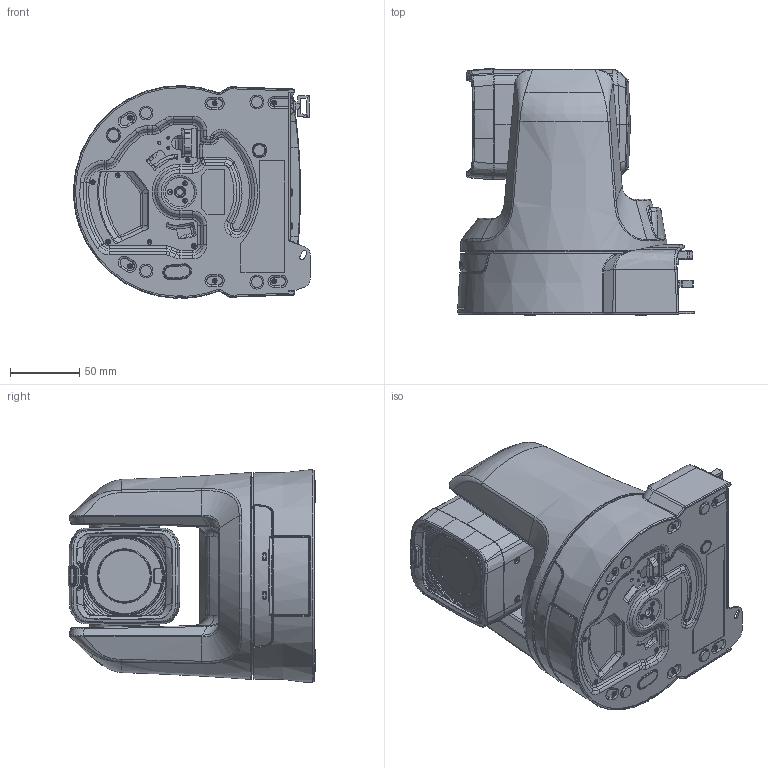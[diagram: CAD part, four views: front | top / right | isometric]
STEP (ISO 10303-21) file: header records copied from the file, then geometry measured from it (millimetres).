
FILE_DESCRIPTION(/* description */ (''),/* implementation_level */ '2;1');
FILE_NAME(/* name */ 'CR-N100 3D STEP_001.stp',/* time_stamp */ '2023-09-15T18:23:40+09:00',/* author */ (''),/* organization */ (''),/* preprocessor_version */ 'ST-DEVELOPER v16',/* originating_system */ 'SIEMENS PLM Software NX 11.0',/* authorisation */ '');
FILE_SCHEMA (('AUTOMOTIVE_DESIGN { 1 0 10303 214 3 1 1 1 }'));
Products named in the file (1): CR-N100 3D STEP_001
Bounding box: 171.02 x 178.47 x 153.64 mm (x, y, z)
Volume: 2360420.3 mm3; surface area: 213894.1 mm2
Topology: 3 solids, 3 shells, 2643 faces, 6730 edges, 4222 vertices
Faces by surface type: plane 1016, bspline 727, cylinder 519, cone 185, torus 130, sphere 44, extrusion 22
Full cylindrical faces by diameter (mm): 2 x2, 2.459 x1, 3 x4, 3.5 x25, 4 x1, 4.4 x1, 4.917 x1, 4.975 x1, 5.5 x8, 6 x2, 6.2 x1, 6.35 x1, 8 x4, 8.3 x1, 8.5 x2, 9.6 x1, 10 x4, 37 x1, 37.04 x1, 37.9 x1, 39.3 x1, 50 x2, 52.9 x2, 127 x1
Entity records: 120191 total; most frequent: CARTESIAN_POINT 62432, ORIENTED_EDGE 13028, DIRECTION 10255, EDGE_CURVE 6514, VERTEX_POINT 4174, AXIS2_PLACEMENT_3D 3750, EDGE_LOOP 2960, VECTOR 2755
